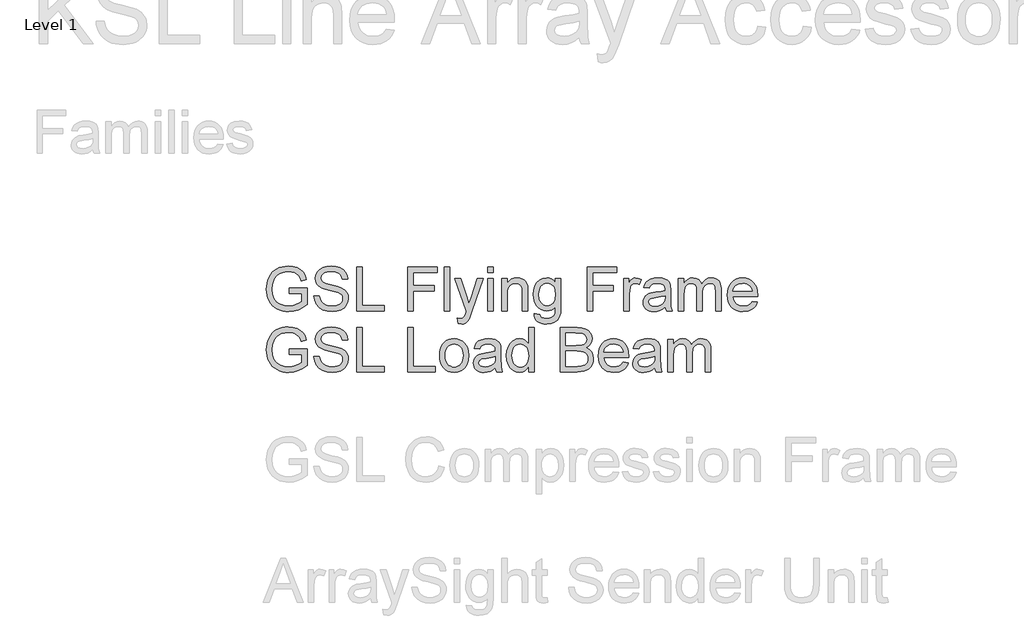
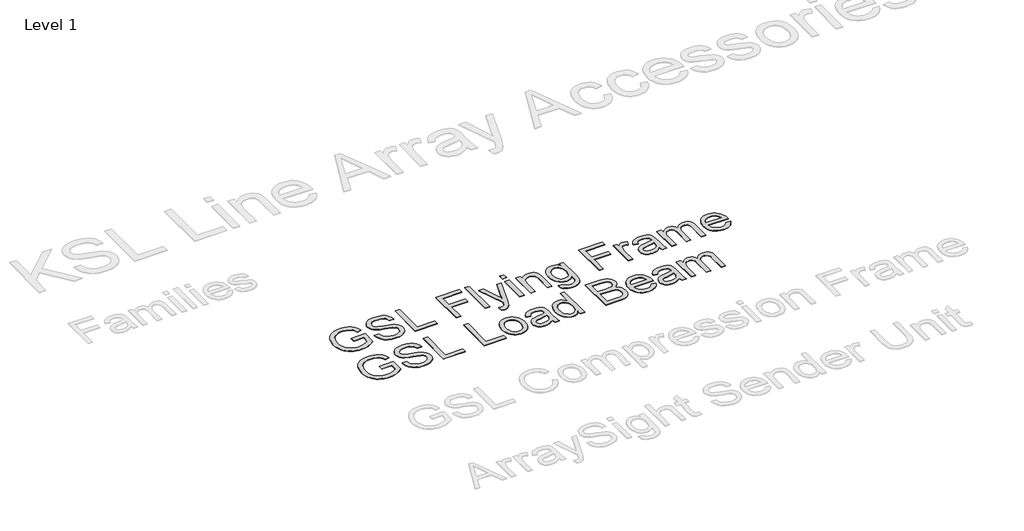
# One storey, part 13 of 52: 2 proxies.
"""IFC4 building model written with IfcOpenShell, lengths in millimetres."""

import ifcopenshell
import ifcopenshell.guid

model = None  # the IFC model being written
_history = None  # IfcOwnerHistory: only IFC2X3 demands one
_inside = {}  # id of a spatial element -> (the spatial element, [elements in it])
_under = {}  # id of a project, library or spatial element -> (it, [spatial elements below it])
_declared = {}  # id of a project -> (the project, [libraries it declares])
_typed = {}  # id of a type object -> (the type object, [elements of that type])
_made_of = {}  # id of a material, layer set ... -> (it, [elements and type objects made of it])


def new_model(schema):
    """Start an empty IFC model of exactly this schema.

    Asked for "IFC4X3", IfcOpenShell would pick the latest addendum, in which some entities
    have other attributes; the version numbers below select the first issue.
    IFC2X3 requires an IfcOwnerHistory on every rooted entity: one is made here for all.
    """
    global model, _history
    if schema == "IFC4X3":
        model = ifcopenshell.file(schema_version=(4, 3, 0, 0))
    else:
        model = ifcopenshell.file(schema=schema)
    _inside.clear()
    _under.clear()
    _declared.clear()
    _typed.clear()
    _made_of.clear()
    _history = None
    if model.schema == "IFC2X3":
        org = make("IfcOrganization", Name="unknown")
        user = make(
            "IfcPersonAndOrganization",
            ThePerson=make("IfcPerson", FamilyName="unknown"),
            TheOrganization=org,
        )
        app = make(
            "IfcApplication",
            ApplicationDeveloper=org,
            Version="unknown",
            ApplicationFullName="unknown",
            ApplicationIdentifier="unknown",
        )
        _history = make(
            "IfcOwnerHistory",
            OwningUser=user,
            OwningApplication=app,
            ChangeAction="ADDED",
            CreationDate=0,
        )
    return model


def make(cls, **values):
    """One entity of the class cls with the attributes given. An attribute that is None is left unset."""
    return model.create_entity(
        cls, **{name: value for name, value in values.items() if value is not None}
    )


def rooted(cls, **values):
    """An entity with a GlobalId (a new one), such as an element, a storey or a relation."""
    return make(cls, GlobalId=ifcopenshell.guid.new(), OwnerHistory=_history, **values)


def si_unit(unit_type, name, prefix=None):
    """IfcSIUnit, for example si_unit("LENGTHUNIT", "METRE", prefix="MILLI")."""
    return make("IfcSIUnit", UnitType=unit_type, Prefix=prefix, Name=name)


def assignment(units):
    """IfcUnitAssignment: the units of a project."""
    return None if units is None else make("IfcUnitAssignment", Units=units)


def point(xyz):
    """IfcCartesianPoint."""
    return None if xyz is None else make("IfcCartesianPoint", Coordinates=xyz)


def direction(xyz):
    """IfcDirection."""
    return None if xyz is None else make("IfcDirection", DirectionRatios=xyz)


def frame(location, z_axis=None, x_axis=None):
    """IfcAxis2Placement3D, a coordinate frame: its origin and axes. An axis left out is left unset."""
    return make(
        "IfcAxis2Placement3D",
        Location=point(location),
        Axis=direction(z_axis),
        RefDirection=direction(x_axis),
    )


def origin():
    """The frame at (0, 0, 0) with its axes left unset."""
    return frame((0.0, 0.0, 0.0))


def origin_with_axes():
    """The frame at (0, 0, 0) with the z axis (0, 0, 1) and the x axis (1, 0, 0) written out."""
    return frame((0.0, 0.0, 0.0), z_axis=(0.0, 0.0, 1.0), x_axis=(1.0, 0.0, 0.0))


def place(relative_to, where):
    """IfcLocalPlacement: puts the frame where relative to a parent placement (None: the world)."""
    return make(
        "IfcLocalPlacement", PlacementRelTo=relative_to, RelativePlacement=where
    )


def context(
    kind, dimensions, precision=None, world=None, true_north=None, identifier=None
):
    """IfcGeometricRepresentationContext, for example the 3D "Model" context."""
    return make(
        "IfcGeometricRepresentationContext",
        ContextIdentifier=identifier,
        ContextType=kind,
        CoordinateSpaceDimension=dimensions,
        Precision=precision,
        WorldCoordinateSystem=world,
        TrueNorth=true_north,
    )


def project(units=None, contexts=None):
    """IfcProject with its units and contexts."""
    return rooted(
        "IfcProject",
        Name="project",
        RepresentationContexts=contexts,
        UnitsInContext=assignment(units),
    )


def spatial(cls, under=None, at=None, **own):
    """A site, building, storey or space (cls), placed at a placement, below another one or the project."""
    s = rooted(cls, ObjectPlacement=at, **own)
    if under is not None:
        _under.setdefault(under.id(), (under, []))[1].append(s)
    return s


def polyline(points):
    """IfcPolyline through the points."""
    return make("IfcPolyline", Points=[point(p) for p in points])


def outline(outer, holes=None, kind="AREA"):
    """IfcArbitraryClosedProfileDef: a profile drawn as a closed curve; with holes, ...WithVoids."""
    if holes is None:
        return make("IfcArbitraryClosedProfileDef", ProfileType=kind, OuterCurve=outer)
    return make(
        "IfcArbitraryProfileDefWithVoids",
        ProfileType=kind,
        OuterCurve=outer,
        InnerCurves=holes,
    )


def extrude(swept, where, along, depth):
    """IfcExtrudedAreaSolid: the profile swept, set in the frame where, extruded along a direction by depth."""
    return make(
        "IfcExtrudedAreaSolid",
        SweptArea=swept,
        Position=where,
        ExtrudedDirection=direction(along),
        Depth=depth,
    )


def shape(context_of_items, identifier, shape_type, items):
    """IfcShapeRepresentation: the items that make up one representation, for example the "Body"."""
    return make(
        "IfcShapeRepresentation",
        ContextOfItems=context_of_items,
        RepresentationIdentifier=identifier,
        RepresentationType=shape_type,
        Items=items,
    )


def made_of(thing, what):
    """Note that an element or type object is made of a material, layer set ...; save() writes the relation."""
    if what is not None:
        _made_of.setdefault(what.id(), (what, []))[1].append(thing)
    return thing


def element(
    cls,
    number,
    at=None,
    inside=None,
    cuts=None,
    type_object=None,
    material=None,
    context=None,
    identifier="Body",
    shape_type=None,
    held_by="IfcProductDefinitionShape",
    body=None,
    shapes=None,
    **own,
):
    """One element of the class cls, such as IfcWall. Its Tag is "e" and its number.

    at: its placement. inside: the storey or other place that contains it. cuts: it is an
    opening in that element (IfcRelVoidsElement). A single representation is given by context,
    identifier, shape_type and body (its items); several are given by shapes. held_by: the class
    of the entity that holds the representations. save() writes the other relations.
    """
    e = rooted(cls, Tag="e%d" % number, ObjectPlacement=at, **own)
    if body is not None:
        shapes = [shape(context, identifier, shape_type, body)]
    if shapes is not None:
        e.Representation = make(held_by, Representations=shapes)
    if inside is not None:
        _inside.setdefault(inside.id(), (inside, []))[1].append(e)
    if cuts is not None:
        rooted(
            "IfcRelVoidsElement", RelatingBuildingElement=cuts, RelatedOpeningElement=e
        )
    if type_object is not None:
        _typed.setdefault(type_object.id(), (type_object, []))[1].append(e)
    return made_of(e, material)


def aggregate(whole, parts):
    """IfcRelAggregates: a whole, such as a stair, and the parts it consists of."""
    return rooted("IfcRelAggregates", RelatingObject=whole, RelatedObjects=parts)


def save(model, path):
    """Write the relations noted so far, then the file.

    IfcRelAggregates (storeys below a building ...), IfcRelContainedInSpatialStructure (elements
    in a storey), IfcRelDefinesByType, IfcRelAssociatesMaterial and IfcRelDeclares: one each for
    every whole, place, type object, material and project.
    """
    for whole, parts in _under.values():
        aggregate(whole, parts)
    for where, things in _inside.values():
        rooted(
            "IfcRelContainedInSpatialStructure",
            RelatedElements=things,
            RelatingStructure=where,
        )
    for kind, things in _typed.values():
        rooted("IfcRelDefinesByType", RelatedObjects=things, RelatingType=kind)
    for what, things in _made_of.values():
        rooted("IfcRelAssociatesMaterial", RelatedObjects=things, RelatingMaterial=what)
    for by, libraries in _declared.values():
        rooted("IfcRelDeclares", RelatingContext=by, RelatedDefinitions=libraries)
    model.write(path)


model = new_model("IFC4")

# Units and contexts
model_context = context("Model", 3, world=origin())
ifc_project = project(units=[si_unit("LENGTHUNIT", "METRE", prefix="MILLI")], contexts=[model_context])

# Site, building, storey
site = spatial("IfcSite", under=ifc_project)
building = spatial("IfcBuilding", under=site)
storey = spatial("IfcBuildingStorey", under=building, Name="Level 1", Elevation=0.0)

# Proxies
placement = place(None, origin())
element("IfcBuildingElementProxy", 1, Name="400mm Arial", ObjectType="400mm Arial", at=placement, inside=storey, context=model_context, shape_type="SweptSolid", body=[
    extrude(outline(polyline([(-18762.7159242, -51399.7229199), (-18762.7159242, -51349.4947649), (-18599.4744202, -51349.4947649), (-18599.4744202, -51499.6887208), (-18639.144362, -51527.2798704), (-18680.0651026, -51547.0719217), (-18722.1385402, -51558.9912984), (-18765.2665727, -51562.9644239), (-18794.1177182, -51561.385597), (-18821.6138317, -51556.6491164), (-18847.7549131, -51548.7549819), (-18872.5409625, -51537.7031936), (-18895.1718366, -51523.6592984), (-18914.847392, -51506.7888433), (-18931.5676286, -51487.0918281), (-18945.3325466, -51464.568253), (-18956.0838979, -51439.9385534), (-18963.7634346, -51413.923165), (-18968.3711566, -51386.5220877), (-18969.9070639, -51357.7353216), (-18963.7879601, -51301.142808), (-18956.1390802, -51274.3272762), (-18945.4306485, -51248.4988945), (-18931.8527372, -51224.7919656), (-18915.5954187, -51204.3407923), (-18896.658693, -51187.1453747), (-18875.0425601, -51173.2057128), (-18851.2160695, -51162.4329017), (-18825.6482709, -51154.7380366), (-18798.3391641, -51150.1211176), (-18769.2887492, -51148.5821446), (-18727.9142875, -51152.1505999), (-18690.709155, -51162.855966), (-18659.3778718, -51179.9256906), (-18635.6249576, -51202.5872215), (-18618.052461, -51231.9319419), (-18605.2624303, -51269.0512353), (-18651.5665107, -51282.0987834), (-18661.9039948, -51255.6235424), (-18674.4732963, -51235.6475501), (-18691.1015625, -51220.5889138), (-18713.6159406, -51208.8657409), (-18740.4590635, -51201.3241599), (-18770.0735641, -51198.8102996), (-18804.7403108, -51201.5203637), (-18834.3793369, -51209.6505558), (-18858.8802778, -51222.1830691), (-18878.1327688, -51238.1000967), (-18892.9093623, -51256.5800356), (-18903.9826104, -51276.8012826), (-18915.7548342, -51314.7176536), (-18919.6789088, -51355.6751824), (-18914.9577566, -51403.7083082), (-18900.7942997, -51443.2310972), (-18877.617734, -51473.9615066), (-18845.8572551, -51495.6174934), (-18808.6889109, -51508.456575), (-18769.2887492, -51512.7362689), (-18734.4993752, -51509.51117), (-18700.5683925, -51499.8358736), (-18671.1010447, -51486.5062826), (-18649.7025753, -51472.3183003), (-18649.7025753, -51399.7229199), (-18762.7159242, -51399.7229199)])), origin_with_axes(), (0.0, 0.0, 1.0), 5.0),
    extrude(outline(polyline([(-18536.6892264, -51418.5584781), (-18486.4610713, -51418.5584781), (-18480.6975867, -51446.4316706), (-18470.2742635, -51468.8356841), (-18454.0138793, -51486.6166472), (-18430.7392118, -51500.6206885), (-18402.2896708, -51509.7073738), (-18370.5046664, -51512.7362689), (-18342.5211093, -51510.4431378), (-18318.0201685, -51503.5637445), (-18298.1668034, -51492.6744374), (-18284.125974, -51478.3515651), (-18275.7750527, -51461.9072399), (-18272.9914122, -51444.6535743), (-18275.0760769, -51427.8413671), (-18281.3300708, -51413.3100283), (-18294.0342624, -51400.9124051), (-18315.46952, -51390.5013446), (-18388.6044606, -51371.3224299), (-18436.613061, -51358.6305011), (-18467.3312076, -51346.5517089), (-18492.3349205, -51329.6536626), (-18510.0545699, -51309.1748982), (-18520.6127832, -51285.5568741), (-18524.1321876, -51259.2410487), (-18519.7789173, -51229.8227518), (-18506.7191065, -51202.3910177), (-18485.2961117, -51179.1408756), (-18455.8532893, -51162.2673548), (-18420.5120923, -51152.0034471), (-18381.3939735, -51148.5821446), (-18339.0139676, -51152.1628627), (-18301.9314625, -51162.9050169), (-18271.4708333, -51180.5878782), (-18248.9564552, -51204.9907172), (-18234.7071593, -51234.592955), (-18229.0417766, -51267.8740129), (-18279.2699316, -51267.8740129), (-18288.491507, -51237.903893), (-18296.854691, -51226.04583), (-18307.7194726, -51216.2724317), (-18337.7631689, -51203.1758327), (-18379.4319362, -51198.8102996), (-18422.0817222, -51203.1267817), (-18438.3850259, -51208.5223843), (-18451.3406035, -51216.076228), (-18468.2631753, -51235.1325153), (-18473.9040325, -51257.7695207), (-18469.9063815, -51277.0710628), (-18457.9134285, -51292.595683), (-18429.5619894, -51306.4770969), (-18375.900269, -51320.6528165), (-18320.521766, -51334.1172975), (-18287.019979, -51345.8649959), (-18258.386497, -51364.0874173), (-18238.4105047, -51386.57727), (-18226.6750691, -51413.0892991), (-18222.7632572, -51443.37825), (-18227.2636802, -51474.3416513), (-18240.7649495, -51503.4656426), (-18262.7152418, -51528.5306692), (-18292.5627344, -51547.3171764), (-18328.4557544, -51559.0526121), (-18368.5426291, -51562.9644239), (-18417.7529773, -51558.7460437), (-18458.256785, -51546.0909031), (-18490.520036, -51524.9499511), (-18515.0087141, -51495.2741368), (-18530.7295381, -51459.1235994), (-18536.6892264, -51418.5584781)])), origin_with_axes(), (0.0, 0.0, 1.0), 5.0),
    extrude(outline(polyline([(-18147.4210246, -51556.6859046), (-18147.4210246, -51154.860664), (-18097.1928695, -51154.860664), (-18097.1928695, -51506.4577495), (-17896.2802492, -51506.4577495), (-17896.2802492, -51556.6859046), (-18147.4210246, -51556.6859046)])), origin_with_axes(), (0.0, 0.0, 1.0), 5.0),
    extrude(outline(polyline([(-17682.8105901, -51556.6859046), (-17682.8105901, -51154.860664), (-17632.582435, -51154.860664), (-17632.582435, -51506.4577495), (-17431.6698147, -51506.4577495), (-17431.6698147, -51556.6859046), (-17682.8105901, -51556.6859046)])), origin_with_axes(), (0.0, 0.0, 1.0), 5.0),
    extrude(outline(polyline([(-17393.9986984, -51409.140699), (-17391.282503, -51370.9238911), (-17383.1339168, -51337.9923212), (-17369.5529399, -51310.3459892), (-17350.5395721, -51287.9848953), (-17331.3974456, -51273.6926798), (-17310.2687563, -51263.4839544), (-17287.1535043, -51257.3587192), (-17262.0516895, -51255.3169741), (-17234.3409782, -51257.8032433), (-17209.2851487, -51265.2620507), (-17186.8842008, -51277.6933965), (-17167.1381347, -51295.0972805), (-17151.0218377, -51316.8850917), (-17139.5101969, -51342.4682188), (-17132.6032124, -51371.8466618), (-17130.3008843, -51405.0204207), (-17134.3721117, -51455.7636105), (-17146.5857939, -51494.39122), (-17166.5863117, -51523.3190076), (-17194.0180459, -51544.9627316), (-17226.6001279, -51558.4640009), (-17262.0516895, -51562.9644239), (-17290.167071, -51560.4873518), (-17315.4558925, -51553.0561355), (-17337.918154, -51540.670775), (-17357.5538554, -51523.3312703), (-17373.4984743, -51501.331927), (-17384.8874877, -51474.9670507), (-17391.7208957, -51444.2366414), (-17393.9986984, -51409.140699)]), holes=[polyline([(-17343.7705434, -51409.0425972), (-17342.3174095, -51433.4055823), (-17337.9580078, -51454.500549), (-17330.6923384, -51472.3274974), (-17320.5204013, -51486.8864273), (-17308.1473035, -51498.195733), (-17294.2781523, -51506.2738085), (-17278.9129476, -51511.1206538), (-17262.0516895, -51512.7362689), (-17245.2762705, -51511.1114567), (-17229.9723795, -51506.2370203), (-17216.1400165, -51498.1129596), (-17203.7791815, -51486.7392745), (-17193.6072443, -51472.0362575), (-17186.3415749, -51453.9242006), (-17181.9821732, -51432.4031039), (-17180.5290394, -51407.4729673), (-17181.9913703, -51383.8825344), (-17186.3783631, -51363.3393906), (-17193.6900177, -51345.8435361), (-17203.9263343, -51331.3949707), (-17216.3331545, -51320.085665), (-17230.1563205, -51312.0075896), (-17245.3958322, -51307.1607443), (-17262.0516895, -51305.5451292), (-17278.9129476, -51307.1546129), (-17294.2781523, -51311.9830641), (-17308.1473035, -51320.0304827), (-17320.5204013, -51331.2968688), (-17330.6923384, -51345.8128792), (-17337.9580078, -51363.6091708), (-17342.3174095, -51384.6857434), (-17343.7705434, -51409.0425972)])]), origin_with_axes(), (0.0, 0.0, 1.0), 5.0),
    extrude(outline(polyline([(-16885.4386283, -51519.0147883), (-16909.4367971, -51539.5916545), (-16934.1462045, -51553.0561355), (-16960.1309361, -51560.4873518), (-16987.9550776, -51562.9644239), (-17010.3192372, -51561.4745019), (-17029.9304133, -51557.0047356), (-17046.7886057, -51549.5551252), (-17060.8938145, -51539.1256707), (-17072.0314419, -51526.3785595), (-17079.9868901, -51511.9759794), (-17084.760159, -51495.9179303), (-17086.3512486, -51478.2044123), (-17083.9477529, -51457.3822913), (-17076.7372658, -51438.4731568), (-17065.6149668, -51422.286349), (-17051.4760355, -51409.6312084), (-17034.860032, -51400.0662765), (-17016.3065167, -51393.150095), (-16972.8473904, -51385.5962513), (-16921.4910638, -51377.6500002), (-16885.7329339, -51368.330323), (-16885.4386283, -51357.1467104), (-16888.8967191, -51334.7304341), (-16899.2709913, -51320.0642053), (-16922.4720825, -51309.1748982), (-16954.7966471, -51305.5451292), (-16984.7177161, -51307.9608876), (-17005.6134134, -51315.2081629), (-17019.8627093, -51328.6113303), (-17029.8445741, -51349.4947649), (-17080.0727292, -51343.2162455), (-17071.3539259, -51315.7477232), (-17058.343166, -51294.1653128), (-17039.8264389, -51277.6596739), (-17014.5897341, -51265.4214662), (-16983.7244347, -51257.8430971), (-16948.321924, -51255.3169741), (-16914.3664159, -51257.5487915), (-16887.4497165, -51264.2442439), (-16867.1548931, -51274.3119478), (-16853.0650127, -51286.6605201), (-16843.72081, -51301.9276229), (-16837.6630199, -51320.7509183), (-16835.2104732, -51364.700554), (-16835.2104732, -51427.1914423), (-16832.6598247, -51514.4530515), (-16822.6534345, -51556.6859046), (-16872.8815895, -51556.6859046), (-16880.9259425, -51539.2237725), (-16885.4386283, -51519.0147883)]), holes=[polyline([(-16885.4386283, -51418.5584781), (-16919.18567, -51426.9216621), (-16966.4707691, -51433.960471), (-17009.6846408, -51442.1029258), (-17020.9295671, -51447.6702067), (-17029.2559629, -51455.3466776), (-17034.4063109, -51464.5437275), (-17036.1230935, -51474.6727451), (-17032.3829599, -51489.6087541), (-17021.1625591, -51501.8469618), (-17002.7071456, -51510.0139421), (-16977.2619743, -51512.7362689), (-16950.2839613, -51509.7318992), (-16926.445208, -51500.7187904), (-16907.1191406, -51487.4382503), (-16893.679185, -51471.6315873), (-16887.7194967, -51455.3466776), (-16885.7329339, -51432.7832486), (-16885.4386283, -51418.5584781)])]), origin_with_axes(), (0.0, 0.0, 1.0), 5.0),
    extrude(outline(polyline([(-16584.0696979, -51556.6859046), (-16584.0696979, -51509.3027036), (-16599.0976774, -51532.7797062), (-16617.3017048, -51549.5489939), (-16638.68178, -51559.6105664), (-16663.2379032, -51562.9644239), (-16695.7096207, -51558.1083816), (-16725.4344859, -51543.5402546), (-16750.5976143, -51520.2778498), (-16769.3841216, -51489.338974), (-16781.082769, -51451.974426), (-16784.9823182, -51409.4350046), (-16781.3893373, -51367.4228808), (-16770.6103949, -51329.4819843), (-16752.6577535, -51297.7705564), (-16727.543676, -51274.4468379), (-16697.1688859, -51260.09944), (-16663.4341069, -51255.3169741), (-16638.8595897, -51258.7382767), (-16617.1300265, -51269.0021843), (-16598.7114013, -51284.735271), (-16584.0696979, -51304.5641105), (-16584.0696979, -51154.860664), (-16533.8415428, -51154.860664), (-16533.8415428, -51556.6859046), (-16584.0696979, -51556.6859046)]), holes=[polyline([(-16734.7541631, -51409.2388009), (-16733.3378174, -51433.5956547), (-16729.0887804, -51454.6722273), (-16722.0070519, -51472.4685188), (-16712.0926322, -51486.9845292), (-16687.3954876, -51506.298334), (-16673.520205, -51511.1267851), (-16658.6271155, -51512.7362689), (-16643.6635154, -51511.2003615), (-16629.8710063, -51506.5926395), (-16605.799261, -51488.1617516), (-16596.2925771, -51474.2527465), (-16589.5020886, -51457.1002485), (-16584.0696979, -51413.0647736), (-16589.6001905, -51364.9212832), (-16596.5133063, -51346.386162), (-16606.1916685, -51331.5421235), (-16617.8933816, -51320.1684385), (-16630.8765504, -51312.0443778), (-16645.1411747, -51307.1699413), (-16660.6872547, -51305.5451292), (-16675.8746497, -51307.105562), (-16689.7499323, -51311.7868604), (-16702.3131025, -51319.5890243), (-16713.5641602, -51330.5120539), (-16722.8347864, -51344.7950724), (-16729.4566623, -51362.677203), (-16734.7541631, -51409.2388009)])]), origin_with_axes(), (0.0, 0.0, 1.0), 5.0),
    extrude(outline(polyline([(-16295.2578062, -51556.6859046), (-16295.2578062, -51154.860664), (-16141.9245906, -51154.860664), (-16099.7530512, -51157.8159827), (-16066.8276126, -51166.6819387), (-16041.5909078, -51181.6792614), (-16022.4855695, -51203.0286799), (-16010.4558282, -51228.1427574), (-16006.4459145, -51254.4340573), (-16009.8181661, -51278.6284299), (-16019.934921, -51301.3757999), (-16036.8697555, -51321.2782158), (-16060.696246, -51336.9377261), (-16032.2344424, -51351.8001587), (-16011.203855, -51374.4126387), (-15998.2176205, -51403.2791126), (-15993.8888757, -51436.9035269), (-15996.8441944, -51464.9238722), (-16005.7101505, -51490.9086038), (-16018.9416396, -51513.006049), (-16034.9935573, -51529.364535), (-16054.6507186, -51541.2103353), (-16078.6979383, -51549.769723), (-16107.9200315, -51554.9568592), (-16143.101813, -51556.6859046), (-16295.2578062, -51556.6859046)]), holes=[polyline([(-16245.0296511, -51506.4577495), (-16142.0226924, -51506.4577495), (-16104.7439836, -51504.4957122), (-16073.2042339, -51493.5573542), (-16061.6282138, -51484.1273124), (-16052.3085366, -51471.2391798), (-16046.1649072, -51455.469305), (-16044.1170308, -51437.3940363), (-16046.5205265, -51416.4002371), (-16053.7310136, -51398.3494938), (-16066.3248406, -51384.235088), (-16084.8783559, -51375.0503008), (-16111.1573931, -51370.0103175), (-16146.9277857, -51368.330323), (-16245.0296511, -51368.330323), (-16245.0296511, -51506.4577495)]), polyline([(-16245.0296511, -51318.102168), (-16153.304407, -51318.102168), (-16099.7407885, -51313.7856859), (-16080.9910694, -51306.3422068), (-16067.5143257, -51295.1953824), (-16059.3841336, -51280.5168908), (-16056.6740696, -51262.4784103), (-16059.2001926, -51244.9672273), (-16066.7785617, -51229.7123872), (-16079.0658203, -51217.8052733), (-16095.718612, -51210.3372688), (-16121.2741479, -51206.4009315), (-16160.2696394, -51205.088819), (-16245.0296511, -51205.088819), (-16245.0296511, -51318.102168)])]), origin_with_axes(), (0.0, 0.0, 1.0), 5.0),
    extrude(outline(polyline([(-15724.5011534, -51468.7866332), (-15675.254017, -51475.0651526), (-15682.8047949, -51494.7897589), (-15692.9981919, -51512.1721831), (-15705.8342078, -51527.2124254), (-15721.3128428, -51539.9104856), (-15739.2746812, -51549.9965836), (-15759.5603075, -51557.2009394), (-15807.102924, -51562.9644239), (-15838.2686604, -51560.4781548), (-15866.0376197, -51553.0193473), (-15890.4098018, -51540.5880016), (-15911.3852069, -51523.1841175), (-15928.2525964, -51501.2920731), (-15940.3007318, -51475.3962464), (-15947.529613, -51445.4966372), (-15949.93924, -51411.5932457), (-15947.5050875, -51376.5402229), (-15940.2026299, -51345.6442667), (-15928.0318672, -51318.905377), (-15910.9927995, -51296.3235538), (-15890.0725767, -51278.3831752), (-15866.2583489, -51265.568619), (-15839.550116, -51257.8798853), (-15809.9478781, -51255.3169741), (-15781.2990678, -51257.873754), (-15755.3909783, -51265.5440936), (-15732.2236096, -51278.3279929), (-15711.7969618, -51296.225452), (-15695.1227104, -51318.7582242), (-15683.2125308, -51345.4480629), (-15676.066423, -51376.2949682), (-15673.6843871, -51411.2989401), (-15673.9786927, -51424.8369975), (-15899.711085, -51424.8369975), (-15896.8017515, -51444.8804349), (-15891.0168071, -51462.4345374), (-15882.3562518, -51477.4993051), (-15870.8200856, -51490.074738), (-15857.0459706, -51499.9891577), (-15841.6715689, -51507.0708861), (-15806.1219054, -51512.7362689), (-15779.3891471, -51510.112044), (-15756.874769, -51502.2393693), (-15738.5787711, -51488.6277354), (-15724.5011534, -51468.7866332)]), holes=[polyline([(-15899.711085, -51374.6088424), (-15723.9125422, -51374.6088424), (-15730.7060964, -51348.0722878), (-15744.0234246, -51329.0895769), (-15757.7208976, -51318.788881), (-15773.3068314, -51311.4312411), (-15790.7812262, -51307.0166572), (-15810.1440819, -51305.5451292), (-15844.0014882, -51310.241756), (-15871.997308, -51324.3316364), (-15891.4582655, -51346.2941915), (-15899.711085, -51374.6088424)])]), origin_with_axes(), (0.0, 0.0, 1.0), 5.0),
    extrude(outline(polyline([(-15435.1006505, -51519.0147883), (-15459.0988193, -51539.5916545), (-15483.8082267, -51553.0561355), (-15509.7929583, -51560.4873518), (-15537.6170998, -51562.9644239), (-15559.9812595, -51561.4745019), (-15579.5924355, -51557.0047356), (-15596.4506279, -51549.5551252), (-15610.5558367, -51539.1256707), (-15621.6934642, -51526.3785595), (-15629.6489123, -51511.9759794), (-15634.4221812, -51495.9179303), (-15636.0132708, -51478.2044123), (-15633.6097751, -51457.3822913), (-15626.399288, -51438.4731568), (-15615.276989, -51422.286349), (-15601.1380577, -51409.6312084), (-15584.5220542, -51400.0662765), (-15565.9685389, -51393.150095), (-15522.5094126, -51385.5962513), (-15471.153086, -51377.6500002), (-15435.3949561, -51368.330323), (-15435.1006505, -51357.1467104), (-15438.5587413, -51334.7304341), (-15448.9330135, -51320.0642053), (-15472.1341047, -51309.1748982), (-15504.4586693, -51305.5451292), (-15534.3797383, -51307.9608876), (-15555.2754356, -51315.2081629), (-15569.5247316, -51328.6113303), (-15579.5065964, -51349.4947649), (-15629.7347514, -51343.2162455), (-15621.0159481, -51315.7477232), (-15608.0051882, -51294.1653128), (-15589.4884612, -51277.6596739), (-15564.2517563, -51265.4214662), (-15533.3864569, -51257.8430971), (-15497.9839462, -51255.3169741), (-15464.0284381, -51257.5487915), (-15437.1117388, -51264.2442439), (-15416.8169154, -51274.3119478), (-15402.7270349, -51286.6605201), (-15393.3828323, -51301.9276229), (-15387.3250421, -51320.7509183), (-15384.8724954, -51364.700554), (-15384.8724954, -51427.1914423), (-15382.3218469, -51514.4530515), (-15372.3154567, -51556.6859046), (-15422.5436117, -51556.6859046), (-15430.5879647, -51539.2237725), (-15435.1006505, -51519.0147883)]), holes=[polyline([(-15435.1006505, -51418.5584781), (-15468.8476922, -51426.9216621), (-15516.1327913, -51433.960471), (-15559.346663, -51442.1029258), (-15570.5915893, -51447.6702067), (-15578.9179852, -51455.3466776), (-15584.0683331, -51464.5437275), (-15585.7851157, -51474.6727451), (-15582.0449821, -51489.6087541), (-15570.8245813, -51501.8469618), (-15552.3691678, -51510.0139421), (-15526.9239965, -51512.7362689), (-15499.9459835, -51509.7318992), (-15476.1072302, -51500.7187904), (-15456.7811628, -51487.4382503), (-15443.3412072, -51471.6315873), (-15437.3815189, -51455.3466776), (-15435.3949561, -51432.7832486), (-15435.1006505, -51418.5584781)])]), origin_with_axes(), (0.0, 0.0, 1.0), 5.0),
    extrude(outline(polyline([(-15315.8087822, -51556.6859046), (-15315.8087822, -51261.5954935), (-15265.5806271, -51261.5954935), (-15265.5806271, -51310.1559169), (-15250.4729399, -51287.8500052), (-15231.0487705, -51270.3756104), (-15207.9703067, -51259.0816332), (-15181.899736, -51255.3169741), (-15153.9652298, -51259.1552096), (-15131.573479, -51270.669916), (-15114.847111, -51289.100804), (-15103.908753, -51313.687584), (-15085.6004924, -51288.1504422), (-15064.7170578, -51269.9096266), (-15041.2584492, -51258.9651372), (-15015.2246667, -51255.3169741), (-14995.11685, -51256.8344873), (-14977.4677113, -51261.387027), (-14962.2772505, -51268.9745932), (-14949.5454678, -51279.5971858), (-14939.4808296, -51293.3774322), (-14932.2918022, -51310.4379597), (-14927.9783858, -51330.7787684), (-14926.5405804, -51354.3998581), (-14926.5405804, -51556.6859046), (-14976.7687355, -51556.6859046), (-14976.7687355, -51375.9822685), (-14977.9336951, -51350.9295047), (-14981.4285741, -51334.0437211), (-14987.9768736, -51322.4799637), (-14998.3020949, -51313.3932784), (-15011.5826349, -51307.5071665), (-15026.9968905, -51305.5451292), (-15054.2078954, -51310.5728498), (-15076.3911798, -51325.6560116), (-15084.9965528, -51337.2259003), (-15091.1432478, -51351.8246842), (-15096.0606038, -51390.1089371), (-15096.0606038, -51556.6859046), (-15146.2887588, -51556.6859046), (-15146.2887588, -51370.3904622), (-15149.1950266, -51341.9899722), (-15157.9138299, -51321.731937), (-15173.2545091, -51309.5918311), (-15196.0264046, -51305.5451292), (-15215.3769975, -51308.2429305), (-15233.2070116, -51316.3363344), (-15247.9222914, -51329.6291371), (-15257.9286816, -51347.925135), (-15263.6676408, -51373.3089927), (-15265.5806271, -51407.8653748), (-15265.5806271, -51556.6859046), (-15315.8087822, -51556.6859046)])), origin_with_axes(), (0.0, 0.0, 1.0), 5.0),
])
element("IfcBuildingElementProxy", 2, Name="400mm Arial", ObjectType="400mm Arial", at=placement, inside=storey, context=model_context, shape_type="SweptSolid", body=[
    extrude(outline(polyline([(-18762.7159242, -50846.1695294), (-18762.7159242, -50795.9413743), (-18599.4744202, -50795.9413743), (-18599.4744202, -50946.1353302), (-18639.144362, -50973.7264798), (-18680.0651026, -50993.5185312), (-18722.1385402, -51005.4379078), (-18765.2665727, -51009.4110333), (-18794.1177182, -51007.8322065), (-18821.6138317, -51003.0957258), (-18847.7549131, -50995.2015913), (-18872.5409625, -50984.149803), (-18895.1718366, -50970.1059078), (-18914.847392, -50953.2354527), (-18931.5676286, -50933.5384375), (-18945.3325466, -50911.0148624), (-18956.0838979, -50886.3851628), (-18963.7634346, -50860.3697744), (-18968.3711566, -50832.9686971), (-18969.9070639, -50804.181931), (-18963.7879601, -50747.5894174), (-18956.1390802, -50720.7738856), (-18945.4306485, -50694.9455039), (-18931.8527372, -50671.238575), (-18915.5954187, -50650.7874017), (-18896.658693, -50633.5919841), (-18875.0425601, -50619.6523222), (-18851.2160695, -50608.8795111), (-18825.6482709, -50601.184646), (-18798.3391641, -50596.567727), (-18769.2887492, -50595.028754), (-18727.9142875, -50598.5972093), (-18690.709155, -50609.3025754), (-18659.3778718, -50626.3723), (-18635.6249576, -50649.0338309), (-18618.052461, -50678.3785514), (-18605.2624303, -50715.4978447), (-18651.5665107, -50728.5453928), (-18661.9039948, -50702.0701518), (-18674.4732963, -50682.0941595), (-18691.1015625, -50667.0355232), (-18713.6159406, -50655.3123503), (-18740.4590635, -50647.7707694), (-18770.0735641, -50645.2569091), (-18804.7403108, -50647.9669731), (-18834.3793369, -50656.0971652), (-18858.8802778, -50668.6296785), (-18878.1327688, -50684.5467061), (-18892.9093623, -50703.026645), (-18903.9826104, -50723.247892), (-18915.7548342, -50761.164263), (-18919.6789088, -50802.1217918), (-18914.9577566, -50850.1549176), (-18900.7942997, -50889.6777067), (-18877.617734, -50920.408116), (-18845.8572551, -50942.0641028), (-18808.6889109, -50954.9031844), (-18769.2887492, -50959.1828783), (-18734.4993752, -50955.9577794), (-18700.5683925, -50946.282483), (-18671.1010447, -50932.952892), (-18649.7025753, -50918.7649097), (-18649.7025753, -50846.1695294), (-18762.7159242, -50846.1695294)])), origin_with_axes(), (0.0, 0.0, 1.0), 5.0),
    extrude(outline(polyline([(-18536.6892264, -50865.0050875), (-18486.4610713, -50865.0050875), (-18480.6975867, -50892.87828), (-18470.2742635, -50915.2822935), (-18454.0138793, -50933.0632566), (-18430.7392118, -50947.0672979), (-18402.2896708, -50956.1539832), (-18370.5046664, -50959.1828783), (-18342.5211093, -50956.8897472), (-18318.0201685, -50950.0103539), (-18298.1668034, -50939.1210468), (-18284.125974, -50924.7981745), (-18275.7750527, -50908.3538493), (-18272.9914122, -50891.1001837), (-18275.0760769, -50874.2879765), (-18281.3300708, -50859.7566377), (-18294.0342624, -50847.3590145), (-18315.46952, -50836.947954), (-18388.6044606, -50817.7690393), (-18436.613061, -50805.0771105), (-18467.3312076, -50792.9983183), (-18492.3349205, -50776.100272), (-18510.0545699, -50755.6215076), (-18520.6127832, -50732.0034835), (-18524.1321876, -50705.6876581), (-18519.7789173, -50676.2693612), (-18506.7191065, -50648.8376271), (-18485.2961117, -50625.587485), (-18455.8532893, -50608.7139642), (-18420.5120923, -50598.4500565), (-18381.3939735, -50595.028754), (-18339.0139676, -50598.6094721), (-18301.9314625, -50609.3516263), (-18271.4708333, -50627.0344876), (-18248.9564552, -50651.4373266), (-18234.7071593, -50681.0395645), (-18229.0417766, -50714.3206223), (-18279.2699316, -50714.3206223), (-18288.491507, -50684.3505024), (-18296.854691, -50672.4924394), (-18307.7194726, -50662.7190411), (-18337.7631689, -50649.6224421), (-18379.4319362, -50645.2569091), (-18422.0817222, -50649.5733911), (-18438.3850259, -50654.9689937), (-18451.3406035, -50662.5228374), (-18468.2631753, -50681.5791247), (-18473.9040325, -50704.2161301), (-18469.9063815, -50723.5176722), (-18457.9134285, -50739.0422924), (-18429.5619894, -50752.9237063), (-18375.900269, -50767.0994259), (-18320.521766, -50780.5639069), (-18287.019979, -50792.3116053), (-18258.386497, -50810.5340268), (-18238.4105047, -50833.0238794), (-18226.6750691, -50859.5359085), (-18222.7632572, -50889.8248594), (-18227.2636802, -50920.7882607), (-18240.7649495, -50949.912252), (-18262.7152418, -50974.9772786), (-18292.5627344, -50993.7637858), (-18328.4557544, -51005.4992215), (-18368.5426291, -51009.4110333), (-18417.7529773, -51005.1926531), (-18458.256785, -50992.5375125), (-18490.520036, -50971.3965605), (-18515.0087141, -50941.7207462), (-18530.7295381, -50905.5702088), (-18536.6892264, -50865.0050875)])), origin_with_axes(), (0.0, 0.0, 1.0), 5.0),
    extrude(outline(polyline([(-18147.4210246, -51003.132514), (-18147.4210246, -50601.3072734), (-18097.1928695, -50601.3072734), (-18097.1928695, -50952.9043589), (-17896.2802492, -50952.9043589), (-17896.2802492, -51003.132514), (-18147.4210246, -51003.132514)])), origin_with_axes(), (0.0, 0.0, 1.0), 5.0),
    extrude(outline(polyline([(-17682.8105901, -51003.132514), (-17682.8105901, -50601.3072734), (-17412.8342566, -50601.3072734), (-17412.8342566, -50651.5354284), (-17632.582435, -50651.5354284), (-17632.582435, -50770.8272967), (-17444.2268535, -50770.8272967), (-17444.2268535, -50821.0554518), (-17632.582435, -50821.0554518), (-17632.582435, -51003.132514), (-17682.8105901, -51003.132514)])), origin_with_axes(), (0.0, 0.0, 1.0), 5.0),
    extrude(outline(polyline([(-17350.0490627, -51003.132514), (-17350.0490627, -50601.3072734), (-17299.8209077, -50601.3072734), (-17299.8209077, -51003.132514), (-17350.0490627, -51003.132514)])), origin_with_axes(), (0.0, 0.0, 1.0), 5.0),
    extrude(outline(polyline([(-17224.4786751, -51116.1458629), (-17230.7571944, -51067.7816432), (-17205.2507094, -51072.1962272), (-17191.8352794, -51070.8105383), (-17181.4119562, -51066.6534718), (-17166.7947782, -51051.202428), (-17153.0605171, -51014.2180248), (-17149.1364424, -51002.0533934), (-17255.871272, -50708.0421029), (-17202.8962647, -50708.0421029), (-17146.2914883, -50871.8722181), (-17126.5730134, -50937.4042642), (-17106.8545385, -50879.5241636), (-17048.6801323, -50708.0421029), (-16996.0975325, -50708.0421029), (-17098.8101855, -51010.1958483), (-17125.4938929, -51075.7278943), (-17139.1545776, -51096.6481171), (-17154.6301469, -51111.1426677), (-17172.6073137, -51119.6039536), (-17193.7727912, -51122.4243823), (-17224.4786751, -51116.1458629)])), origin_with_axes(), (0.0, 0.0, 1.0), 5.0),
    extrude(outline(polyline([(-16954.5023415, -51003.132514), (-16954.5023415, -50708.0421029), (-16904.2741865, -50708.0421029), (-16904.2741865, -51003.132514), (-16954.5023415, -51003.132514)])), origin_with_axes(), (0.0, 0.0, 1.0), 5.0),
    extrude(outline(polyline([(-16954.5023415, -50651.5354284), (-16954.5023415, -50601.3072734), (-16904.2741865, -50601.3072734), (-16904.2741865, -50651.5354284), (-16954.5023415, -50651.5354284)])), origin_with_axes(), (0.0, 0.0, 1.0), 5.0),
    extrude(outline(polyline([(-16828.9319538, -51003.132514), (-16828.9319538, -50708.0421029), (-16778.7037988, -50708.0421029), (-16778.7037988, -50749.2448864), (-16761.2539295, -50728.4718164), (-16740.2969185, -50713.6339092), (-16715.8327658, -50704.7311649), (-16687.8614714, -50701.7635835), (-16663.1030132, -50704.1548165), (-16640.4292195, -50711.3285154), (-16621.520085, -50722.3895007), (-16608.0556039, -50736.4425929), (-16598.9198677, -50753.4510038), (-16592.9969676, -50773.3779452), (-16590.3482172, -50821.9383686), (-16590.3482172, -51003.132514), (-16640.5763723, -51003.132514), (-16640.5763723, -50828.7073973), (-16642.0233748, -50802.7349285), (-16646.3643824, -50784.2672523), (-16654.3719471, -50771.0357632), (-16666.8186213, -50760.7718555), (-16682.7724372, -50754.1867678), (-16701.301427, -50751.9917386), (-16730.7197239, -50756.9213573), (-16755.7970132, -50771.7102135), (-16765.8187319, -50783.7828743), (-16772.9771024, -50800.2823818), (-16777.2721247, -50821.208736), (-16778.7037988, -50846.5619368), (-16778.7037988, -51003.132514), (-16828.9319538, -51003.132514)])), origin_with_axes(), (0.0, 0.0, 1.0), 5.0),
    extrude(outline(polyline([(-16533.8415428, -51028.2465915), (-16483.6133877, -51034.5251109), (-16478.0706323, -51050.2214093), (-16467.3284781, -51061.0126145), (-16446.2120515, -51069.400324), (-16418.571851, -51072.1962272), (-16389.0922404, -51069.032442), (-16367.1664735, -51059.5410866), (-16351.9606844, -51044.3352974), (-16342.6410072, -51024.0282113), (-16339.2074419, -50965.4613977), (-16355.9215472, -50981.942511), (-16374.5731643, -50993.7147349), (-16395.1622933, -51000.7780692), (-16417.6889342, -51003.132514), (-16445.2279672, -51000.3917931), (-16469.4744564, -50992.1696305), (-16490.4284017, -50978.4660262), (-16508.0898031, -50959.2809801), (-16522.1030414, -50936.26383), (-16532.1124974, -50911.0639133), (-16538.118171, -50883.6812301), (-16540.1200622, -50854.1157805), (-16536.5270813, -50813.5629218), (-16525.7481389, -50776.2719503), (-16508.1633795, -50744.6708869), (-16484.152948, -50721.1877529), (-16454.5384474, -50706.6196259), (-16420.1414808, -50701.7635835), (-16396.6522154, -50704.5104357), (-16375.3334538, -50712.7509924), (-16356.1851959, -50726.4852536), (-16339.2074419, -50745.7132192), (-16339.2074419, -50708.0421029), (-16288.9792868, -50708.0421029), (-16288.9792868, -50962.8126473), (-16292.4128521, -51021.6369783), (-16302.7135479, -51060.3749524), (-16320.4577228, -51086.0653784), (-16346.2217252, -51105.7470652), (-16379.4414694, -51118.255053), (-16419.5528696, -51122.4243823), (-16444.1611094, -51120.95592), (-16466.2861457, -51116.5505331), (-16485.9279786, -51109.2082216), (-16503.086608, -51098.9289855), (-16516.9465621, -51085.7005621), (-16526.6923693, -51069.5106886), (-16532.3240295, -51050.3593651), (-16533.8415428, -51028.2465915)]), holes=[polyline([(-16489.8919071, -50850.6822152), (-16484.5330927, -50896.7533037), (-16477.8345747, -50914.3901797), (-16468.4566495, -50928.4279435), (-16457.0553733, -50939.1363752), (-16444.2868024, -50946.785255), (-16430.1509368, -50951.3745829), (-16414.6477763, -50952.9043589), (-16399.2979001, -50951.38378), (-16385.2294795, -50946.8220432), (-16372.4425144, -50939.2191487), (-16360.937005, -50928.5750963), (-16351.4303212, -50914.6752882), (-16344.6398327, -50897.3051267), (-16339.2074419, -50852.1537431), (-16344.7992482, -50808.6087776), (-16351.7890061, -50791.4072287), (-16361.5746672, -50777.2529689), (-16373.3284969, -50766.2011807), (-16386.2227608, -50758.3070462), (-16400.257459, -50753.5705655), (-16415.4325913, -50751.9917386), (-16430.3532719, -50753.54604), (-16444.1151242, -50758.2089443), (-16468.1623439, -50776.8605615), (-16477.6690278, -50790.8002234), (-16484.4595163, -50807.7503863), (-16489.8919071, -50850.6822152)])]), origin_with_axes(), (0.0, 0.0, 1.0), 5.0),
    extrude(outline(polyline([(-16050.3955502, -51003.132514), (-16050.3955502, -50601.3072734), (-15780.4192167, -50601.3072734), (-15780.4192167, -50651.5354284), (-16000.1673951, -50651.5354284), (-16000.1673951, -50770.8272967), (-15811.8118136, -50770.8272967), (-15811.8118136, -50821.0554518), (-16000.1673951, -50821.0554518), (-16000.1673951, -51003.132514), (-16050.3955502, -51003.132514)])), origin_with_axes(), (0.0, 0.0, 1.0), 5.0),
    extrude(outline(polyline([(-15717.6340228, -51003.132514), (-15717.6340228, -50708.0421029), (-15673.6843871, -50708.0421029), (-15673.6843871, -50751.697433), (-15657.4485284, -50726.3871517), (-15642.4879939, -50711.4756682), (-15627.4784085, -50704.1916047), (-15611.095397, -50701.7635835), (-15586.0794213, -50705.6386072), (-15560.6710382, -50717.2636782), (-15577.4464572, -50762.2924345), (-15595.104793, -50754.5669126), (-15612.7631287, -50751.9917386), (-15627.7604514, -50754.4688107), (-15641.1636187, -50761.900027), (-15651.9916121, -50773.7213018), (-15659.2634129, -50789.3685493), (-15665.370254, -50817.4256828), (-15667.4058677, -50848.0334648), (-15667.4058677, -51003.132514), (-15717.6340228, -51003.132514)])), origin_with_axes(), (0.0, 0.0, 1.0), 5.0),
    extrude(outline(polyline([(-15340.9228598, -50965.4613977), (-15364.9210286, -50986.0382639), (-15389.6304359, -50999.5027449), (-15415.6151675, -51006.9339612), (-15443.4393091, -51009.4110333), (-15465.8034687, -51007.9211113), (-15485.4146447, -51003.451345), (-15502.2728372, -50996.0017346), (-15516.378046, -50985.5722801), (-15527.5156734, -50972.8251689), (-15535.4711215, -50958.4225888), (-15540.2443904, -50942.3645397), (-15541.8354801, -50924.6510217), (-15539.4319843, -50903.8289007), (-15532.2214972, -50884.9197662), (-15521.0991983, -50868.7329584), (-15506.9602669, -50856.0778178), (-15490.3442635, -50846.5128859), (-15471.7907482, -50839.5967044), (-15428.3316218, -50832.0428607), (-15376.9752953, -50824.0966096), (-15341.2171653, -50814.7769324), (-15340.9228598, -50803.5933198), (-15344.3809505, -50781.1770435), (-15354.7552228, -50766.5108147), (-15377.9563139, -50755.6215076), (-15410.2808786, -50751.9917386), (-15440.2019475, -50754.407497), (-15461.0976448, -50761.6547723), (-15475.3469408, -50775.0579397), (-15485.3288056, -50795.9413743), (-15535.5569607, -50789.6628549), (-15526.8381574, -50762.1943326), (-15513.8273975, -50740.6119222), (-15495.3106704, -50724.1062834), (-15470.0739655, -50711.8680756), (-15439.2086661, -50704.2897065), (-15403.8061555, -50701.7635835), (-15369.8506473, -50703.995401), (-15342.933948, -50710.6908533), (-15322.6391246, -50720.7585572), (-15308.5492442, -50733.1071295), (-15299.2050415, -50748.3742323), (-15293.1472513, -50767.1975277), (-15290.6947047, -50811.1471634), (-15290.6947047, -50873.6380517), (-15288.1440562, -50960.8996609), (-15278.1376659, -51003.132514), (-15328.365821, -51003.132514), (-15336.4101739, -50985.6703819), (-15340.9228598, -50965.4613977)]), holes=[polyline([(-15340.9228598, -50865.0050875), (-15374.6699014, -50873.3682715), (-15421.9550006, -50880.4070804), (-15465.1688723, -50888.5495352), (-15476.4137986, -50894.1168161), (-15484.7401944, -50901.793287), (-15489.8905423, -50910.9903369), (-15491.607325, -50921.1193545), (-15487.8671914, -50936.0553635), (-15476.6467905, -50948.2935712), (-15458.1913771, -50956.4605515), (-15432.7462057, -50959.1828783), (-15405.7681928, -50956.1785086), (-15381.9294395, -50947.1653998), (-15362.603372, -50933.8848597), (-15349.1634164, -50918.0781967), (-15343.2037281, -50901.793287), (-15341.2171653, -50879.229858), (-15340.9228598, -50865.0050875)])]), origin_with_axes(), (0.0, 0.0, 1.0), 5.0),
    extrude(outline(polyline([(-15221.6309914, -51003.132514), (-15221.6309914, -50708.0421029), (-15171.4028364, -50708.0421029), (-15171.4028364, -50756.6025263), (-15156.2951491, -50734.2966146), (-15136.8709798, -50716.8222199), (-15113.7925159, -50705.5282426), (-15087.7219452, -50701.7635835), (-15059.787439, -50705.601819), (-15037.3956883, -50717.1165254), (-15020.6693202, -50735.5474134), (-15009.7309622, -50760.1341934), (-14991.4227016, -50734.5970516), (-14970.539267, -50716.356236), (-14947.0806584, -50705.4117466), (-14921.0468759, -50701.7635835), (-14900.9390592, -50703.2810967), (-14883.2899205, -50707.8336364), (-14868.0994598, -50715.4212026), (-14855.3676771, -50726.0437952), (-14845.3030388, -50739.8240416), (-14838.1140115, -50756.8845691), (-14833.8005951, -50777.2253778), (-14832.3627896, -50800.8464675), (-14832.3627896, -51003.132514), (-14882.5909447, -51003.132514), (-14882.5909447, -50822.4288779), (-14883.7559043, -50797.3761141), (-14887.2507833, -50780.4903305), (-14893.7990828, -50768.9265731), (-14904.1243041, -50759.8398878), (-14917.4048442, -50753.9537759), (-14932.8190998, -50751.9917386), (-14960.0301047, -50757.0194592), (-14982.213389, -50772.102621), (-14990.818762, -50783.6725097), (-14996.965457, -50798.2712936), (-15001.882813, -50836.5555465), (-15001.882813, -51003.132514), (-15052.1109681, -51003.132514), (-15052.1109681, -50816.8370716), (-15055.0172358, -50788.4365816), (-15063.7360391, -50768.1785464), (-15079.0767183, -50756.0384405), (-15101.8486138, -50751.9917386), (-15121.1992068, -50754.6895399), (-15139.0292208, -50762.7829438), (-15153.7445006, -50776.0757465), (-15163.7508909, -50794.3717444), (-15169.48985, -50819.7556021), (-15171.4028364, -50854.3119842), (-15171.4028364, -51003.132514), (-15221.6309914, -51003.132514)])), origin_with_axes(), (0.0, 0.0, 1.0), 5.0),
    extrude(outline(polyline([(-14550.4180285, -50915.2332426), (-14501.1708921, -50921.511762), (-14508.72167, -50941.2363683), (-14518.915067, -50958.6187925), (-14531.7510829, -50973.6590348), (-14547.2297179, -50986.357095), (-14565.1915563, -50996.443193), (-14585.4771827, -51003.6475488), (-14633.0197992, -51009.4110333), (-14664.1855355, -51006.9247642), (-14691.9544948, -50999.4659567), (-14716.326677, -50987.034611), (-14737.3020821, -50969.6307269), (-14754.1694715, -50947.7386825), (-14766.2176069, -50921.8428558), (-14773.4464881, -50891.9432466), (-14775.8561152, -50858.0398551), (-14773.4219626, -50822.9868323), (-14766.119505, -50792.0908761), (-14753.9487423, -50765.3519864), (-14736.9096746, -50742.7701632), (-14715.9894518, -50724.8297846), (-14692.175224, -50712.0152284), (-14665.4669911, -50704.3264947), (-14635.8647533, -50701.7635835), (-14607.2159429, -50704.3203634), (-14581.3078534, -50711.990703), (-14558.1404847, -50724.7746023), (-14537.7138369, -50742.6720614), (-14521.0395855, -50765.2048336), (-14509.1294059, -50791.8946723), (-14501.9832982, -50822.7415776), (-14499.6012622, -50857.7455495), (-14499.8955678, -50871.2836069), (-14725.6279601, -50871.2836069), (-14722.7186266, -50891.3270443), (-14716.9336823, -50908.8811468), (-14708.273127, -50923.9459145), (-14696.7369607, -50936.5213474), (-14682.9628457, -50946.4357671), (-14667.588444, -50953.5174955), (-14632.0387805, -50959.1828783), (-14605.3060222, -50956.5586534), (-14582.7916441, -50948.6859787), (-14564.4956462, -50935.0743449), (-14550.4180285, -50915.2332426)]), holes=[polyline([(-14725.6279601, -50821.0554518), (-14549.8294173, -50821.0554518), (-14556.6229715, -50794.5188972), (-14569.9402997, -50775.5361863), (-14583.6377727, -50765.2354904), (-14599.2237065, -50757.8778505), (-14616.6981013, -50753.4632666), (-14636.060957, -50751.9917386), (-14669.9183633, -50756.6883654), (-14697.9141831, -50770.7782458), (-14717.3751407, -50792.7408009), (-14725.6279601, -50821.0554518)])]), origin_with_axes(), (0.0, 0.0, 1.0), 5.0),
])

save(model, "model.ifc")
